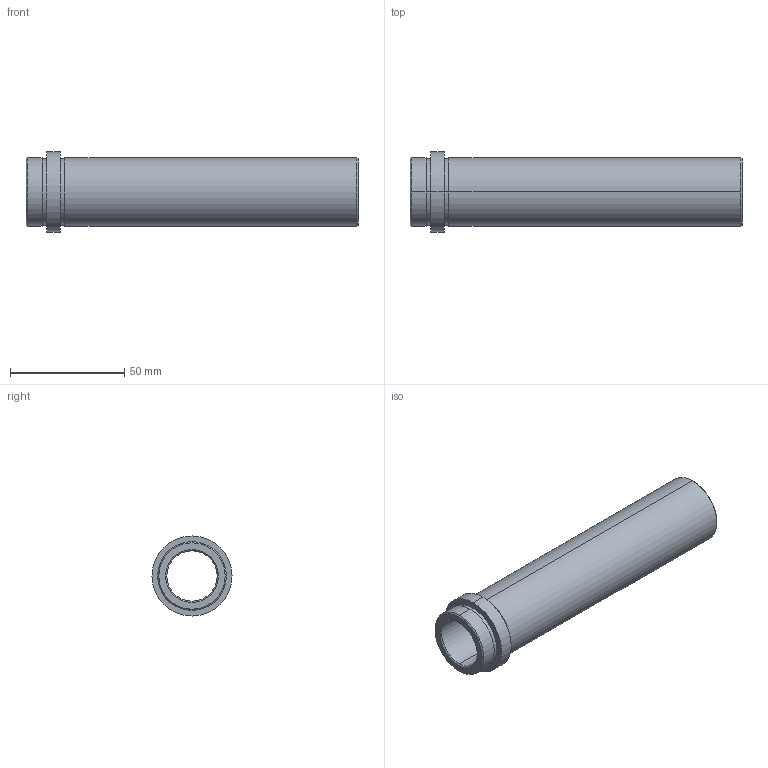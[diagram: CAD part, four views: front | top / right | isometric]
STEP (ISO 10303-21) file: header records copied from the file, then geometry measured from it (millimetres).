
FILE_DESCRIPTION( ( 'STEP AP203' ), '1' );
FILE_NAME( 'D:/Delta 3 D/D21/D21 - 22x136.step', '2002-12-31T22:42:53', ( ' ' ), ( ' ' ), 'XStep 1.0', ' ', ' ' );
FILE_SCHEMA( ( 'CONFIG_CONTROL_DESIGN' ) );
Length unit declared in the file: metre
Products named in the file (1): 1
Bounding box: 145 x 35 x 35 mm (x, y, z)
Volume: 48680.5 mm3; surface area: 25022.9 mm2
Topology: 1 solids, 1 shells, 26 faces, 52 edges, 32 vertices
Faces by surface type: revolution 20, bspline 6
Entity records: 773 total; most frequent: CARTESIAN_POINT 169, DIRECTION 106, ORIENTED_EDGE 104, EDGE_CURVE 52, AXIS2_PLACEMENT_3D 33, EDGE_LOOP 32, VERTEX_POINT 32, CIRCLE 32
